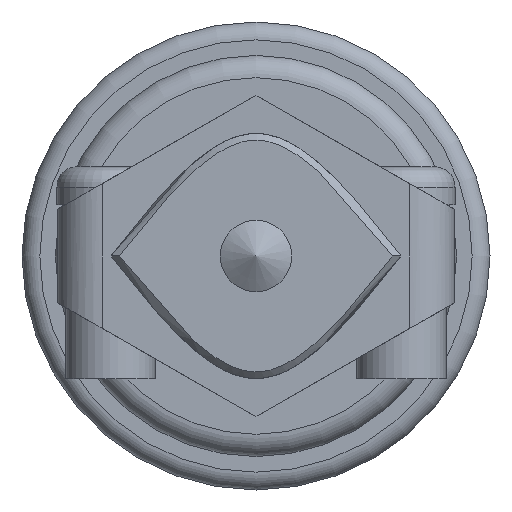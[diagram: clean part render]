
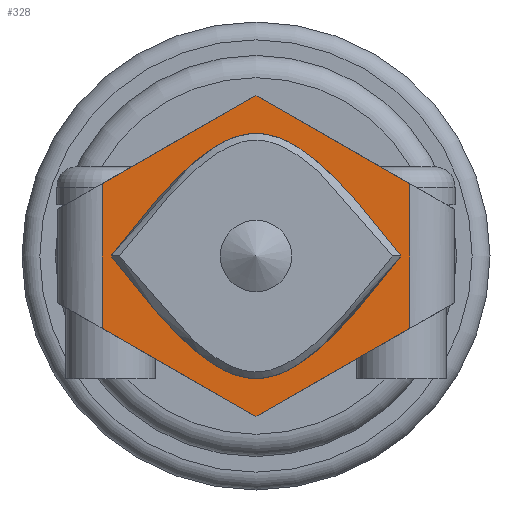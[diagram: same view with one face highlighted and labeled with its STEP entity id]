
A CAD part, left-side view. The second image highlights one B-rep face of the part: STEP entity #328.
In plain terms, the highlighted planar face has unit normal (-1, 0, 0).
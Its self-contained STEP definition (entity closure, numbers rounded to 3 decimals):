
#13 = CARTESIAN_POINT ( 'NONE',  ( 25.913, -9.358, 27.944 ) ) ;
#21 = DIRECTION ( 'NONE',  ( 0., 0.868, -0.497 ) ) ;
#93 = CARTESIAN_POINT ( 'NONE',  ( 25.913, 3.642, 27.944 ) ) ;
#99 = DIRECTION ( 'NONE',  ( 0., 0., -1. ) ) ;
#127 = CARTESIAN_POINT ( 'NONE',  ( 25.913, 1.476, 25.194 ) ) ;
#162 = LINE ( 'NONE', #898, #767 ) ;
#201 = CARTESIAN_POINT ( 'NONE',  ( 25.913, -2.858, 20.744 ) ) ;
#216 = ORIENTED_EDGE ( 'NONE', *, *, #478, .F. ) ;
#305 = CARTESIAN_POINT ( 'NONE',  ( 25.913, 1.476, 30.694 ) ) ;
#328 = ADVANCED_FACE ( 'NONE', ( #2022, #1294 ), #1170, .F. ) ;
#352 = DIRECTION ( 'NONE',  ( 0., 0.868, 0.497 ) ) ;
#388 = B_SPLINE_CURVE_WITH_KNOTS ( 'NONE', 3,
 ( #1218, #1969, #689, #305, #1776 ),
 .UNSPECIFIED., .F., .F.,
 ( 4, 1, 4 ),
 ( 0., 0.5, 1. ),
 .UNSPECIFIED. ) ;
#431 = VERTEX_POINT ( 'NONE', #93 ) ;
#456 = ORIENTED_EDGE ( 'NONE', *, *, #2326, .T. ) ;
#478 = EDGE_CURVE ( 'NONE', #431, #2036, #664, .T. ) ;
#486 = ORIENTED_EDGE ( 'NONE', *, *, #859, .T. ) ;
#497 = VECTOR ( 'NONE', #99, 1000. ) ;
#498 = ORIENTED_EDGE ( 'NONE', *, *, #1560, .T. ) ;
#544 = DIRECTION ( 'NONE',  ( 0., 0., 1. ) ) ;
#627 = EDGE_CURVE ( 'NONE', #2176, #1247, #1797, .T. ) ;
#648 = DIRECTION ( 'NONE',  ( 0., 0., 1. ) ) ;
#664 = B_SPLINE_CURVE_WITH_KNOTS ( 'NONE', 3,
 ( #1241, #127, #1597, #1390, #1951 ),
 .UNSPECIFIED., .F., .F.,
 ( 4, 1, 4 ),
 ( 0., 0.5, 1. ),
 .UNSPECIFIED. ) ;
#666 = CARTESIAN_POINT ( 'NONE',  ( 25.913, 4.042, 24.698 ) ) ;
#689 = CARTESIAN_POINT ( 'NONE',  ( 25.913, -2.858, 36.194 ) ) ;
#693 = VECTOR ( 'NONE', #648, 1000. ) ;
#740 = CARTESIAN_POINT ( 'NONE',  ( 25.913, -9.758, 24.698 ) ) ;
#766 = ORIENTED_EDGE ( 'NONE', *, *, #888, .T. ) ;
#767 = VECTOR ( 'NONE', #1608, 1000. ) ;
#772 = VECTOR ( 'NONE', #21, 1000. ) ;
#859 = EDGE_CURVE ( 'NONE', #1556, #2224, #1665, .T. ) ;
#862 = VERTEX_POINT ( 'NONE', #1329 ) ;
#888 = EDGE_CURVE ( 'NONE', #1373, #862, #1545, .T. ) ;
#891 = CARTESIAN_POINT ( 'NONE',  ( 25.913, 6.042, 25.844 ) ) ;
#898 = CARTESIAN_POINT ( 'NONE',  ( 25.913, -11.758, 25.844 ) ) ;
#901 = CARTESIAN_POINT ( 'NONE',  ( 25.913, -11.758, 30.044 ) ) ;
#1069 = ORIENTED_EDGE ( 'NONE', *, *, #1900, .F. ) ;
#1170 = PLANE ( 'NONE',  #2347 ) ;
#1177 = CARTESIAN_POINT ( 'NONE',  ( 25.913, 4.042, 30.044 ) ) ;
#1218 = CARTESIAN_POINT ( 'NONE',  ( 25.913, -9.358, 27.944 ) ) ;
#1241 = CARTESIAN_POINT ( 'NONE',  ( 25.913, 3.642, 27.944 ) ) ;
#1247 = VERTEX_POINT ( 'NONE', #201 ) ;
#1272 = VECTOR ( 'NONE', #352, 1000. ) ;
#1294 = FACE_BOUND ( 'NONE', #1473, .T. ) ;
#1326 = ORIENTED_EDGE ( 'NONE', *, *, #2017, .T. ) ;
#1329 = CARTESIAN_POINT ( 'NONE',  ( 25.913, -9.758, 31.19 ) ) ;
#1356 = CARTESIAN_POINT ( 'NONE',  ( 25.913, 4.042, 31.19 ) ) ;
#1373 = VERTEX_POINT ( 'NONE', #740 ) ;
#1390 = CARTESIAN_POINT ( 'NONE',  ( 25.913, -7.191, 25.194 ) ) ;
#1473 = EDGE_LOOP ( 'NONE', ( #216, #1069 ) ) ;
#1491 = CARTESIAN_POINT ( 'NONE',  ( 25.913, 6.042, 30.044 ) ) ;
#1501 = CARTESIAN_POINT ( 'NONE',  ( 25.913, 6.042, 30.044 ) ) ;
#1502 = CARTESIAN_POINT ( 'NONE',  ( 25.913, -2.858, 35.144 ) ) ;
#1545 = LINE ( 'NONE', #1908, #693 ) ;
#1556 = VERTEX_POINT ( 'NONE', #1502 ) ;
#1560 = EDGE_CURVE ( 'NONE', #2224, #2176, #1741, .T. ) ;
#1597 = CARTESIAN_POINT ( 'NONE',  ( 25.913, -2.858, 19.694 ) ) ;
#1608 = DIRECTION ( 'NONE',  ( 0., -0.868, 0.497 ) ) ;
#1665 = LINE ( 'NONE', #1501, #772 ) ;
#1741 = LINE ( 'NONE', #1177, #497 ) ;
#1776 = CARTESIAN_POINT ( 'NONE',  ( 25.913, 3.642, 27.944 ) ) ;
#1797 = LINE ( 'NONE', #891, #2153 ) ;
#1900 = EDGE_CURVE ( 'NONE', #2036, #431, #388, .T. ) ;
#1908 = CARTESIAN_POINT ( 'NONE',  ( 25.913, -9.758, 30.044 ) ) ;
#1951 = CARTESIAN_POINT ( 'NONE',  ( 25.913, -9.358, 27.944 ) ) ;
#1969 = CARTESIAN_POINT ( 'NONE',  ( 25.913, -7.191, 30.694 ) ) ;
#2017 = EDGE_CURVE ( 'NONE', #862, #1556, #2019, .T. ) ;
#2019 = LINE ( 'NONE', #901, #1272 ) ;
#2022 = FACE_OUTER_BOUND ( 'NONE', #2260, .T. ) ;
#2036 = VERTEX_POINT ( 'NONE', #13 ) ;
#2098 = DIRECTION ( 'NONE',  ( 1., 0., 0. ) ) ;
#2153 = VECTOR ( 'NONE', #2169, 1000. ) ;
#2169 = DIRECTION ( 'NONE',  ( 0., -0.868, -0.497 ) ) ;
#2176 = VERTEX_POINT ( 'NONE', #666 ) ;
#2186 = ORIENTED_EDGE ( 'NONE', *, *, #627, .T. ) ;
#2224 = VERTEX_POINT ( 'NONE', #1356 ) ;
#2260 = EDGE_LOOP ( 'NONE', ( #456, #766, #1326, #486, #498, #2186 ) ) ;
#2326 = EDGE_CURVE ( 'NONE', #1247, #1373, #162, .T. ) ;
#2347 = AXIS2_PLACEMENT_3D ( 'NONE', #1491, #2098, #544 ) ;
